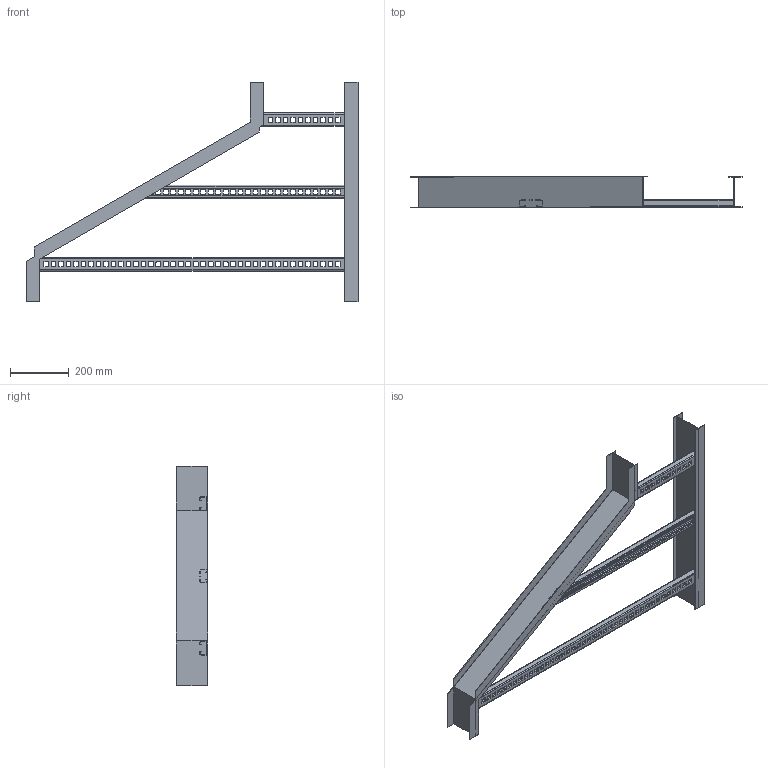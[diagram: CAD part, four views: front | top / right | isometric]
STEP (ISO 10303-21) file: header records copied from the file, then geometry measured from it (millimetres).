
FILE_DESCRIPTION((''),'2;1');
FILE_NAME('AHF74212LHLR_ASM','2010-01-27T',('erouzier'),(''),'PRO/ENGINEER BY PARAMETRIC TECHNOLOGY CORPORATION, 2008510','PRO/ENGINEER BY PARAMETRIC TECHNOLOGY CORPORATION, 2008510','');
FILE_SCHEMA(('CONFIG_CONTROL_DESIGN'));
Length unit declared in the file: inch
Products named in the file (6): CDS013867-7-300; CDS013976-7-30; CDS002159L42-P; CDS002159L30-P_AF1; CDS002159L12-P_AF1; AHF74212LHLR_ASM
Assembly tree (5 placements, depth 2):
  AHF74212LHLR_ASM
    CDS013867-7-300
    CDS013976-7-30
    CDS002159L42-P
    CDS002159L30-P_AF1
    CDS002159L12-P_AF1
Bounding box: 1127 x 106.43 x 744.75 mm (x, y, z)
Volume: 984375.7 mm3; surface area: 1197291.5 mm2
Topology: 5 solids, 5 shells, 755 faces, 2223 edges, 1478 vertices
Faces by surface type: plane 418, cylinder 337
Entity records: 25773 total; most frequent: CARTESIAN_POINT 4557, ORIENTED_EDGE 4446, DIRECTION 4407, EDGE_CURVE 2223, VECTOR 1549, LINE 1549, VERTEX_POINT 1478, AXIS2_PLACEMENT_3D 1429
